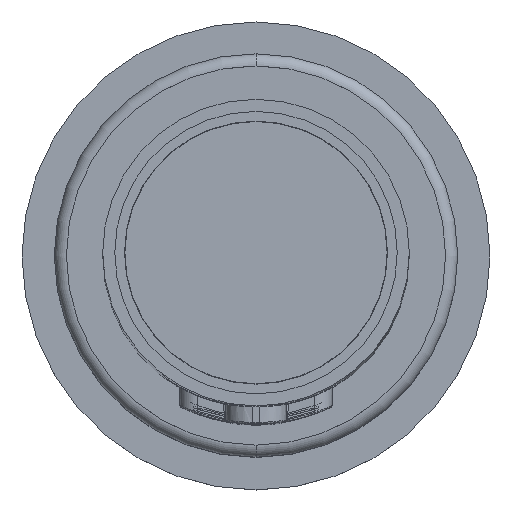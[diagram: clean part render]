
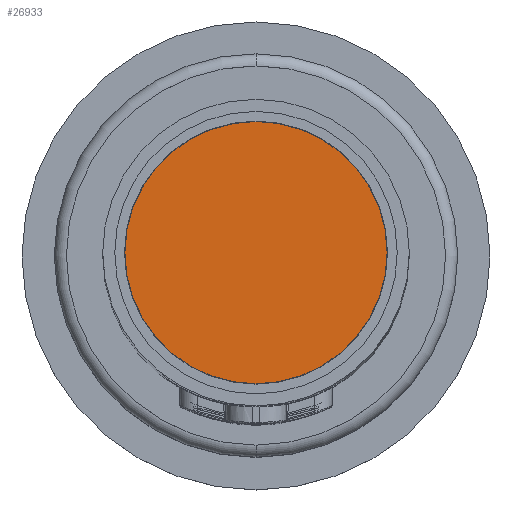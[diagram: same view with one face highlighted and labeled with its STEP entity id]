
A CAD part, top view. The second image highlights one B-rep face of the part: STEP entity #26933.
In plain terms, the highlighted planar face has unit normal (0, 0, 1) as drawn and (0, 1, 0) by its records, which use the part's own axes.
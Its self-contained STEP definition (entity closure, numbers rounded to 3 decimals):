
#1580 = AXIS2_PLACEMENT_3D ( 'NONE', #23582, #23583, #23584 ) ;
#1616 = CIRCLE ( 'NONE', #1580, 16.25 ) ;
#2232 = CIRCLE ( 'NONE', #3697, 16.25 ) ;
#3503 = AXIS2_PLACEMENT_3D ( 'NONE', #64523, #64199, #64703 ) ;
#3697 = AXIS2_PLACEMENT_3D ( 'NONE', #61104, #61340, #61741 ) ;
#8607 = ORIENTED_EDGE ( 'NONE', *, *, #41674, .T. ) ;
#8802 = ORIENTED_EDGE ( 'NONE', *, *, #44218, .T. ) ;
#16936 = CARTESIAN_POINT ( 'NONE',  ( 0., 0.8, 16.25 ) ) ;
#17710 = CARTESIAN_POINT ( 'NONE',  ( 0., 0.8, -16.25 ) ) ;
#23582 = CARTESIAN_POINT ( 'NONE',  ( 0., 0.8, 0. ) ) ;
#23583 = DIRECTION ( 'NONE',  ( 0., 1., 0. ) ) ;
#23584 = DIRECTION ( 'NONE',  ( 0., 0., 1. ) ) ;
#26933 = ADVANCED_FACE ( 'NONE', ( #64512 ), #64624, .T. ) ;
#41674 = EDGE_CURVE ( 'NONE', #53955, #55780, #2232, .T. ) ;
#44218 = EDGE_CURVE ( 'NONE', #55780, #53955, #1616, .T. ) ;
#53955 = VERTEX_POINT ( 'NONE', #16936 ) ;
#55780 = VERTEX_POINT ( 'NONE', #17710 ) ;
#61104 = CARTESIAN_POINT ( 'NONE',  ( 0., 0.8, 0. ) ) ;
#61340 = DIRECTION ( 'NONE',  ( 0., 1., 0. ) ) ;
#61741 = DIRECTION ( 'NONE',  ( 0., 0., 1. ) ) ;
#64199 = DIRECTION ( 'NONE',  ( 0., 1., 0. ) ) ;
#64512 = FACE_OUTER_BOUND ( 'NONE', #66387, .T. ) ;
#64523 = CARTESIAN_POINT ( 'NONE',  ( 0., 0.8, 0. ) ) ;
#64624 = PLANE ( 'NONE',  #3503 ) ;
#64703 = DIRECTION ( 'NONE',  ( 0., 0., 1. ) ) ;
#66387 = EDGE_LOOP ( 'NONE', ( #8802, #8607 ) ) ;
